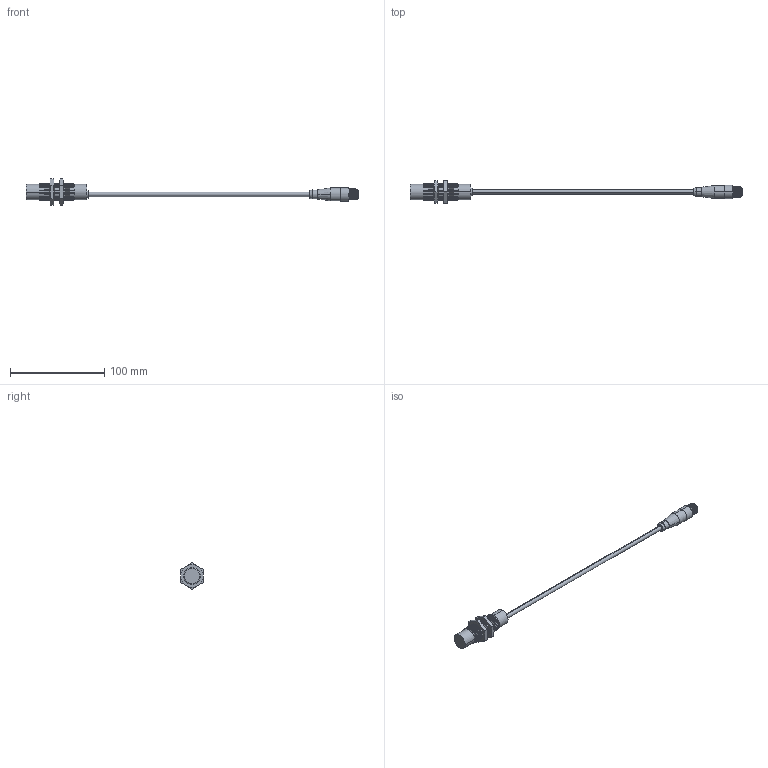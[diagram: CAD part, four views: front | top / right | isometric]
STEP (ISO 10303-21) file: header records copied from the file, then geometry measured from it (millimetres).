
FILE_DESCRIPTION (( 'STEP AP203' ), '1' );
FILE_NAME ('90-29356-026.STEP', '2015-09-15T13:34:24', ( 'Sam' ), ( 'Spade' ), 'SwSTEP 2.0', 'SolidWorks 2002296', '' );
FILE_SCHEMA (( 'CONFIG_CONTROL_DESIGN' ));
Length unit declared in the file: inch
Products named in the file (12): 90-29356-026; Imported93; Imported96; Imported95; Imported94; Imported100; Imported99; Imported98; Imported97; Imported103; Imported102; Imported101
Assembly tree (11 placements, depth 2):
  90-29356-026
    Imported98
    Imported101
    Imported97
    Imported99
    Imported102
    Imported93
    Imported103
    Imported94
    Imported95
    Imported96
    Imported100
Bounding box: 353.19 x 23.98 x 27.69 mm (x, y, z)
Volume: 28182.2 mm3; surface area: 16296.7 mm2
Topology: 11 solids, 11 shells, 432 faces, 891 edges, 491 vertices
Faces by surface type: cone 248, cylinder 117, plane 53, bspline 14
Entity records: 13037 total; most frequent: CARTESIAN_POINT 2552, DIRECTION 2143, ORIENTED_EDGE 1770, AXIS2_PLACEMENT_3D 886, EDGE_CURVE 885, VERTEX_POINT 491, EDGE_LOOP 454, CIRCLE 454
